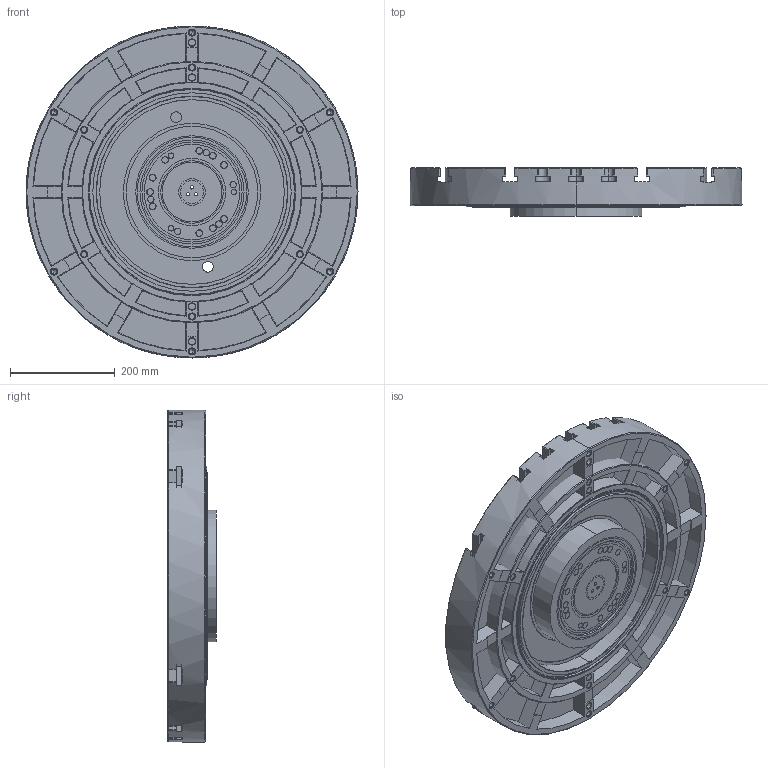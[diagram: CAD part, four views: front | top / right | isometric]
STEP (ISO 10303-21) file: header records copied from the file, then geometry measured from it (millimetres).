
FILE_DESCRIPTION (( 'STEP AP214' ), '1' );
FILE_NAME ('UMC_Hydraulic_Rotary_Union_STEP_2021-03.STEP', '2021-03-04T23:37:53', ( '' ), ( '' ), 'SwSTEP 2.0', 'SolidWorks 2020', '' );
FILE_SCHEMA (( 'AUTOMOTIVE_DESIGN' ));
Length unit declared in the file: inch
Products named in the file (11): Rotary Union_HYDRAULIC WORKHOLDING UMC500; 10000131899_HydWork; UMC_Hydraulic_Rotary_Union_STEP_2021-03; 57-2029; 40-2000_DEFAULT; UMC-1000 Platter; 40-1614; 10000066028; 10000128163; UMC-500 Platter; UMC-750 Platter
Assembly tree (20 placements, depth 3):
  UMC_Hydraulic_Rotary_Union_STEP_2021-03
    UMC-500 Platter
    UMC-750 Platter
    UMC-1000 Platter
    Rotary Union_HYDRAULIC WORKHOLDING UMC500
      10000128163
      10000131899_HydWork
      57-2029  x6
      10000066028
      40-1614  x3
      40-2000_DEFAULT  x4
Bounding box: 635 x 92.71 x 635 mm (x, y, z)
Volume: 32559275.4 mm3; surface area: 2874269.2 mm2
Topology: 19 solids, 19 shells, 1592 faces, 3897 edges, 2351 vertices
Faces by surface type: plane 592, cylinder 522, cone 440, torus 38
Entity records: 54165 total; most frequent: DIRECTION 7915, CARTESIAN_POINT 7905, ORIENTED_EDGE 7040, EDGE_CURVE 3520, AXIS2_PLACEMENT_3D 3105, VERTEX_POINT 2203, LINE 1705, VECTOR 1705
